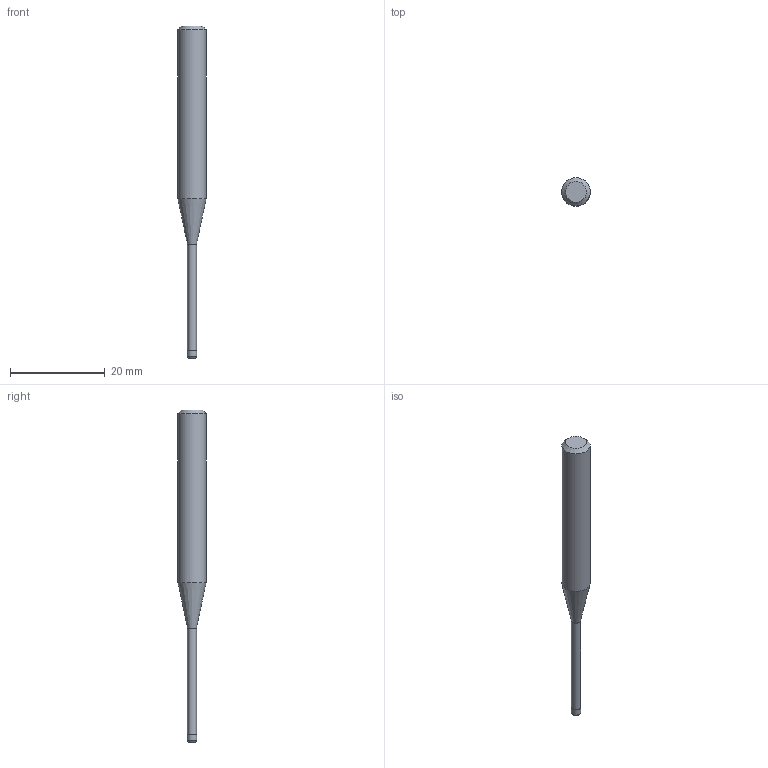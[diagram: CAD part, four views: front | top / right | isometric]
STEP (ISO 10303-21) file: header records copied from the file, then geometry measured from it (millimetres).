
FILE_DESCRIPTION((''),'2;1');
FILE_NAME('C:\Users\nsx150\AppData\Local\Temp\Mastercam 2021\17T8Q8S9EB\TEMP.step','2021-04-21T14:37:48',(''),(''),'STEP Write','Mastercam 2021 ... CNC Software, Inc.','');
FILE_SCHEMA(('AUTOMOTIVE_DESIGN'));
Length unit declared in the file: millimetre
Products named in the file (1): None
Bounding box: 6 x 6 x 70 mm (x, y, z)
Volume: 1220.9 mm3; surface area: 979.3 mm2
Topology: 2 solids, 2 shells, 10 faces, 14 edges, 8 vertices
Faces by surface type: plane 4, cylinder 3, cone 2, torus 1
Full cylindrical faces by diameter (mm): 1.91 x1, 2 x1, 6 x1
Entity records: 232 total; most frequent: DIRECTION 40, CARTESIAN_POINT 28, AXIS2_PLACEMENT_3D 20, ORIENTED_EDGE 16, EDGE_LOOP 16, STYLED_ITEM 13, ADVANCED_FACE 10, FACE_BOUND 10
